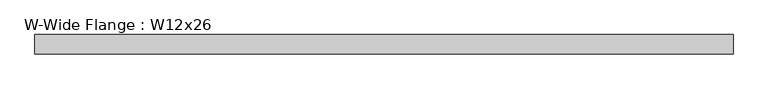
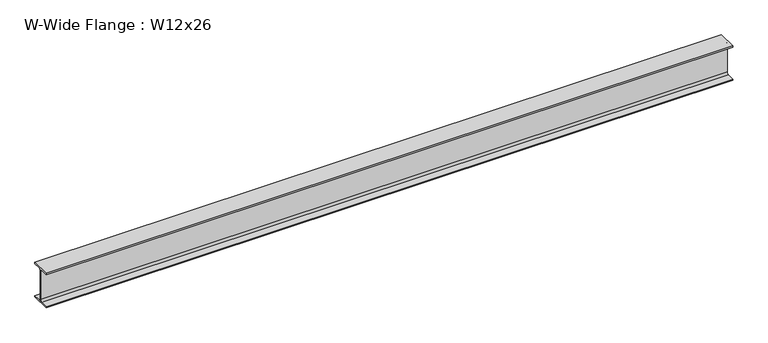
"""IFC4 building model written with IfcOpenShell, lengths in millimetres: beam geometry, W-Wide Flange : W12x26."""

from ifc_helpers import new_model, si_unit, point, frame, frame_2d, origin, place, context, project, spatial, polyline, circle_curve, trimmed, segment, composite_curve, outline, extrude, source, transform, mapped, element, save


def w_wide_flange_w12x26_ed4af81c(model_context):
    return source(origin(), model_context, "Body", "SweptSolid", [
        extrude(outline(composite_curve([segment(polyline([(82.423, -145.288), (82.423, -154.94), (-82.423, -154.94), (-82.423, -145.288), (-20.2565, -145.288)]), True, "CONTINUOUS"), segment(trimmed(circle_curve(frame_2d((-20.2565, -127.9525)), 17.3355), [point((-20.2565, -145.288))], [point((-2.921, -127.9525))], True, "CARTESIAN"), True, "CONTINUOUS"), segment(polyline([(-2.921, -127.9525), (-2.921, 127.9525)]), True, "CONTINUOUS"), segment(trimmed(circle_curve(frame_2d((-20.2565, 127.9525)), 17.3355), [point((-2.921, 127.9525))], [point((-20.2565, 145.288))], True, "CARTESIAN"), True, "CONTINUOUS"), segment(polyline([(-20.2565, 145.288), (-82.423, 145.288), (-82.423, 154.94), (82.423, 154.94), (82.423, 145.288), (20.2565, 145.288)]), True, "CONTINUOUS"), segment(trimmed(circle_curve(frame_2d((20.2565, 127.9525)), 17.3355), [point((20.2565, 145.288))], [point((2.921, 127.9525))], True, "CARTESIAN"), True, "CONTINUOUS"), segment(polyline([(2.921, 127.9525), (2.921, -127.9525)]), True, "CONTINUOUS"), segment(trimmed(circle_curve(frame_2d((20.2565, -127.9525)), 17.3355), [point((2.921, -127.9525))], [point((20.2565, -145.288))], True, "CARTESIAN"), True, "CONTINUOUS"), segment(polyline([(20.2565, -145.288), (82.423, -145.288)]), True, "CONTINUOUS")], self_intersect=False)), frame((-2985.262, 0.0, 0.0), z_axis=(1.0, 0.0, 0.0), x_axis=(0.0, 1.0, 0.0)), (0.0, 0.0, 1.0), 5887.212),
    ])


if __name__ == "__main__":
    model = new_model("IFC4")
    model_context = context("Model", 3, world=origin())
    ifc_project = project(units=[si_unit("LENGTHUNIT", "METRE", prefix="MILLI")], contexts=[model_context])
    site = spatial("IfcSite", under=ifc_project)
    building = spatial("IfcBuilding", under=site)
    placement = place(None, origin())
    w_wide_flange_w12x26_shape = w_wide_flange_w12x26_ed4af81c(model_context)
    element("IfcBeam", 1, ObjectType="W-Wide Flange : W12x26", at=placement, inside=building, context=model_context, shape_type="MappedRepresentation", body=[
        mapped(w_wide_flange_w12x26_shape, transform((0.0, 0.0, 0.0), x_axis=(1.0, 0.0, 0.0), y_axis=(0.0, 1.0, 0.0), z_axis=(0.0, 0.0, 1.0))),
    ])
    save(model, "model.ifc")
